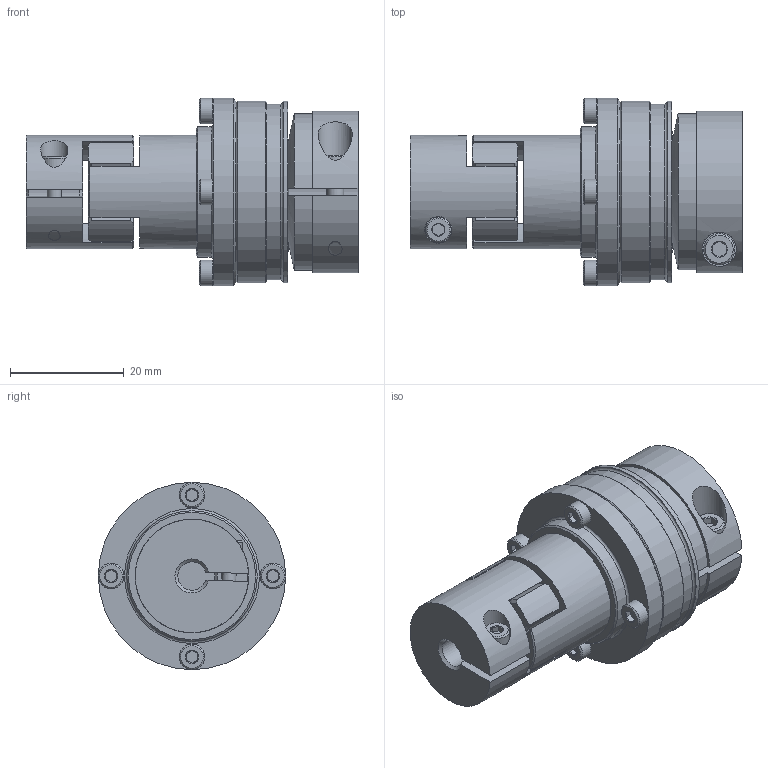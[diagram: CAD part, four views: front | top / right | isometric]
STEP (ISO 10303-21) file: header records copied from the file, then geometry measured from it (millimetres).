
FILE_DESCRIPTION(/* description */ ('STEP AP203'),/* implementation_level */ '2;1');
FILE_NAME(/* name */ 'SKB-EK 3 - D1=5 D2=6 TKA=1',/* time_stamp */ '2026-09-08T09:55:24+02:00',/* author */ ('License CC BY-ND 4.0'),/* organization */ ('CADENAS'),/* preprocessor_version */ 'ST-DEVELOPER v20',/* originating_system */ 'PARTsolutions',/* authorisation */ ' ');
FILE_SCHEMA (('CONFIG_CONTROL_DESIGN'));
Length unit declared in the file: millimetre
Products named in the file (7): SKB-EK 3 - D1=5 D2=6 TKA=1; SKB-EK 3 - D1=5_1_part1; 3_safety_coupling; SKB-EK 3 - D2=6(1)_part2; SKB-EK 3 - D2=6(1)_part3; Cylinder screw ISO 4762 M3x8; Cylinder screw ISO 4762 M2.5x8
Assembly tree (10 placements, depth 2):
  SKB-EK 3 - D1=5 D2=6 TKA=1
    SKB-EK 3 - D1=5_1_part1
    3_safety_coupling
    SKB-EK 3 - D2=6(1)_part2
    SKB-EK 3 - D2=6(1)_part3
    Cylinder screw ISO 4762 M3x8
    Cylinder screw ISO 4762 M2.5x8  x5
Bounding box: 58.5 x 33 x 33 mm (x, y, z)
Volume: 26080.5 mm3; surface area: 11775.6 mm2
Topology: 10 solids, 10 shells, 282 faces, 562 edges, 331 vertices
Faces by surface type: cone 103, plane 94, cylinder 71, torus 14
Full cylindrical faces by diameter (mm): 2 x4, 2.05 x1, 2.4 x1, 2.5 x5, 2.7 x4, 2.75 x1, 3 x2, 4.5 x5, 4.8 x1, 5.5 x1, 6 x2, 8 x2, 10 x1, 20 x1, 23 x1, 31 x1, 32 x2, 33 x1
Entity records: 5012 total; most frequent: CARTESIAN_POINT 1053, DIRECTION 852, ORIENTED_EDGE 678, AXIS2_PLACEMENT_3D 388, EDGE_CURVE 339, EDGE_LOOP 265, FACE_BOUND 265, VERTEX_POINT 238
